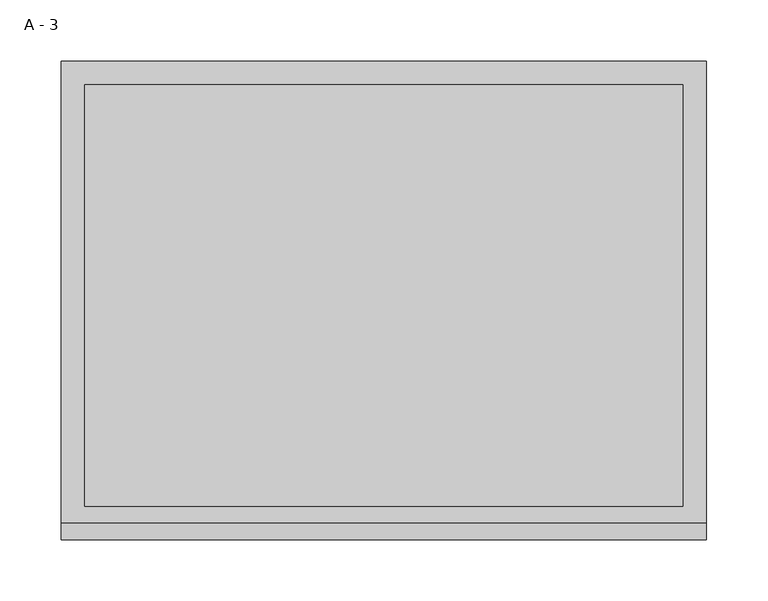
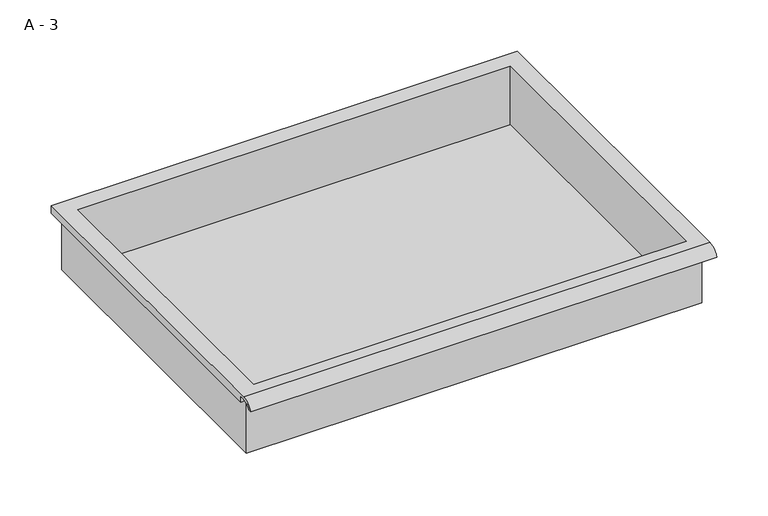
"""IFC4 building model written with IfcOpenShell, lengths in millimetres: furniture geometry, HermanMiller_CoStruc_CO207_Drawer : A - 3."""

from ifc_helpers import new_model, si_unit, frame, origin, place, context, project, spatial, polyline, circle_curve, source, transform, mapped, element, save
from ifc_brep_helpers import plane_surface, cylinder_surface, revolved_surface, advanced_brep


def a_3_f00946d5(model_context):
    return source(origin(), model_context, "Body", "AdvancedBrep", [
        advanced_brep(
        [(-257.1076517, -176.2125, 774.6111), (257.2423483, -176.2125, 774.6111), (257.2423483, -176.2125, 838.1111), (263.5923483, -176.2125, 838.1111), (263.5923483, -176.2125, 844.4182341), (-263.4576517, -176.2125, 844.4182341), (-263.4576517, -176.2125, 838.1111), (-257.1076517, -176.2125, 838.1111), (257.2423483, 185.7375, 774.6111), (-257.1076517, 185.7375, 774.6111), (-257.1076517, 185.7375, 838.1111), (257.2423483, 185.7375, 838.1111), (263.5923483, -181.6070544, 847.6361), (263.5923483, 195.2625, 847.6361), (-263.4576517, 195.2625, 847.6361), (-263.4576517, -181.6070544, 847.6361), (244.5423483, -168.275, 847.6361), (-244.4076517, -168.275, 847.6361), (-244.4076517, 176.2125, 847.6361), (244.5423483, 176.2125, 847.6361), (263.5923483, -195.2625, 838.1111), (263.5923483, -191.8280601, 838.1111), (263.5923483, -180.4714815, 844.4182341), (263.5923483, 195.2625, 838.1111), (-263.4576517, 195.2625, 838.1111), (-263.4576517, -180.4714815, 844.4182341), (-263.4576517, -191.8280601, 838.1111), (-263.4576517, -195.2625, 838.1111), (-244.4076517, -168.275, 777.6372719), (244.5423483, -168.275, 777.6372719), (244.5423483, 176.2125, 777.6372719), (-244.4076517, 176.2125, 777.6372719)],
        [
            (0, 1),
            (1, 2),
            (2, 3),
            (3, 4),
            (4, 5),
            (5, 6),
            (6, 7),
            (7, 0),
            (8, 9),
            (9, 10),
            (10, 11),
            (11, 8),
            (0, 9),
            (8, 1),
            (11, 2),
            (12, 13),
            (13, 14),
            (14, 15),
            (15, 12),
            (16, 17),
            (17, 18),
            (18, 19),
            (19, 16),
            (7, 10),
            (12, 20, circle_curve(frame((263.5923483, -181.6070544, 833.0850859), z_axis=(1.0, 0.0, 0.0), x_axis=(0.0, 1.0, 0.0)), 14.5510141)),
            (20, 21),
            (21, 22, circle_curve(frame((263.5923483, -181.6070544, 833.0850859), z_axis=(-1.0, 0.0, 0.0), x_axis=(0.0, 1.0, 0.0)), 11.3898979)),
            (22, 4),
            (3, 23),
            (23, 13),
            (14, 24),
            (24, 6),
            (5, 25),
            (25, 26, circle_curve(frame((-263.4576517, -181.6070544, 833.0850859), z_axis=(1.0, 0.0, 0.0), x_axis=(0.0, 1.0, 0.0)), 11.3898979)),
            (26, 27),
            (27, 15, circle_curve(frame((-263.4576517, -181.6070544, 833.0850859), z_axis=(-1.0, 0.0, 0.0), x_axis=(0.0, 1.0, 0.0)), 14.5510141)),
            (27, 20),
            (26, 21),
            (25, 22),
            (24, 23),
            (28, 29),
            (29, 30),
            (30, 31),
            (31, 28),
            (28, 17),
            (16, 29),
            (19, 30),
            (18, 31),
        ],
        [
            plane_surface(frame((257.2423483, -176.2125, 774.6111), z_axis=(0.0, -1.0, 0.0), x_axis=(1.0, 0.0, 0.0))),
            plane_surface(frame((257.2423483, 185.7375, 774.6111), z_axis=(0.0, 1.0, 0.0), x_axis=(-1.0, 0.0, 0.0))),
            plane_surface(frame((-257.1076517, -176.2125, 774.6111), z_axis=(0.0, 0.0, -1.0), x_axis=(0.0, 1.0, 0.0))),
            plane_surface(frame((257.2423483, -176.2125, 774.6111), z_axis=(1.0, 0.0, 0.0), x_axis=(0.0, 1.0, 0.0))),
            plane_surface(frame((257.2423483, -176.2125, 847.6361), z_axis=(0.0, 0.0, 1.0), x_axis=(0.0, 1.0, 0.0))),
            plane_surface(frame((-257.1076517, -176.2125, 847.6361), z_axis=(-1.0, 0.0, 0.0), x_axis=(0.0, 1.0, 0.0))),
            plane_surface(frame((263.5923483, 195.2625, 847.6361), z_axis=(1.0, 0.0, 0.0), x_axis=(0.0, -1.0, 0.0))),
            plane_surface(frame((-263.4576517, 195.2625, 847.6361), z_axis=(-1.0, 0.0, 0.0), x_axis=(0.0, 1.0, 0.0))),
            cylinder_surface(frame((-263.4576517, -181.6070544, 833.0850859), z_axis=(1.0, 0.0, 0.0), x_axis=(0.0, 1.0, 0.0)), 14.5510141),
            plane_surface(frame((263.5923483, -195.2625, 838.1111), z_axis=(0.0, -7.330645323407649e-12, -1.0), x_axis=(-1.0, 0.0, 0.0))),
            revolved_surface(polyline([(-263.4576517, -170.21715650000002, 833.0850859), (263.59234829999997, -170.21715650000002, 833.0850859)]), (-263.4576517, -181.6070544, 833.0850859), (-1.0, 0.0, 0.0)),
            plane_surface(frame((263.5923483, -180.4714815, 844.4182341), z_axis=(0.0, -1.80521014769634e-11, -1.0), x_axis=(-1.0, 0.0, 0.0))),
            plane_surface(frame((263.5923483, -176.2125, 838.1111), z_axis=(0.0, 0.0, -1.0), x_axis=(-1.0, 0.0, 0.0))),
            plane_surface(frame((263.5923483, 195.2625, 838.1111), z_axis=(0.0, 1.0, 0.0), x_axis=(-1.0, 0.0, 0.0))),
            plane_surface(frame((244.5423483, -168.275, 777.6372719), z_axis=(0.0, 0.0, 1.0), x_axis=(-1.0, 0.0, 0.0))),
            plane_surface(frame((-244.4076517, -168.275, 847.6361), z_axis=(0.0, 1.0, 0.0), x_axis=(0.0, 0.0, -1.0))),
            plane_surface(frame((244.5423483, -168.275, 847.6361), z_axis=(-1.0, 0.0, 0.0), x_axis=(0.0, 0.0, -1.0))),
            plane_surface(frame((244.5423483, 176.2125, 847.6361), z_axis=(0.0, -1.0, 0.0), x_axis=(0.0, 0.0, -1.0))),
            plane_surface(frame((-244.4076517, 176.2125, 847.6361), z_axis=(1.0, 0.0, 0.0), x_axis=(0.0, 0.0, -1.0))),
        ],
        [
            (0, [[1, 2, 3, 4, 5, 6, 7, 8]]),
            (1, [[9, 10, 11, 12]]),
            (2, [[-1, 13, -9, 14]]),
            (3, [[-14, -12, 15, -2]]),
            (4, [[16, 17, 18, 19], [20, 21, 22, 23]]),
            (5, [[-13, -8, 24, -10]]),
            (6, [[-16, 25, 26, 27, 28, -4, 29, 30]]),
            (7, [[31, 32, -6, 33, 34, 35, 36, -18]]),
            (8, [[-25, -19, -36, 37]]),
            (9, [[-26, -37, -35, 38]]),
            (10, [[-27, -38, -34, 39]]),
            (11, [[-28, -39, -33, -5]]),
            (12, [[-29, -3, -15, -11, -24, -7, -32, 40]]),
            (13, [[-30, -40, -31, -17]]),
            (14, [[41, 42, 43, 44]]),
            (15, [[-41, 45, -20, 46]]),
            (16, [[-42, -46, -23, 47]]),
            (17, [[-43, -47, -22, 48]]),
            (18, [[-44, -48, -21, -45]]),
        ],
    ),
    ])


if __name__ == "__main__":
    model = new_model("IFC4")
    model_context = context("Model", 3, world=origin())
    ifc_project = project(units=[si_unit("LENGTHUNIT", "METRE", prefix="MILLI")], contexts=[model_context])
    site = spatial("IfcSite", under=ifc_project)
    building = spatial("IfcBuilding", under=site)
    placement = place(None, origin())
    a_3_shape = a_3_f00946d5(model_context)
    element("IfcFurniture", 1, ObjectType="HermanMiller_CoStruc_CO207_Drawer : A - 3", at=placement, inside=building, context=model_context, shape_type="MappedRepresentation", body=[
        mapped(a_3_shape, transform((0.0, 0.0, 0.0), x_axis=(1.0, 0.0, 0.0), y_axis=(0.0, 1.0, 0.0), z_axis=(0.0, 0.0, 1.0))),
    ])
    save(model, "model.ifc")
